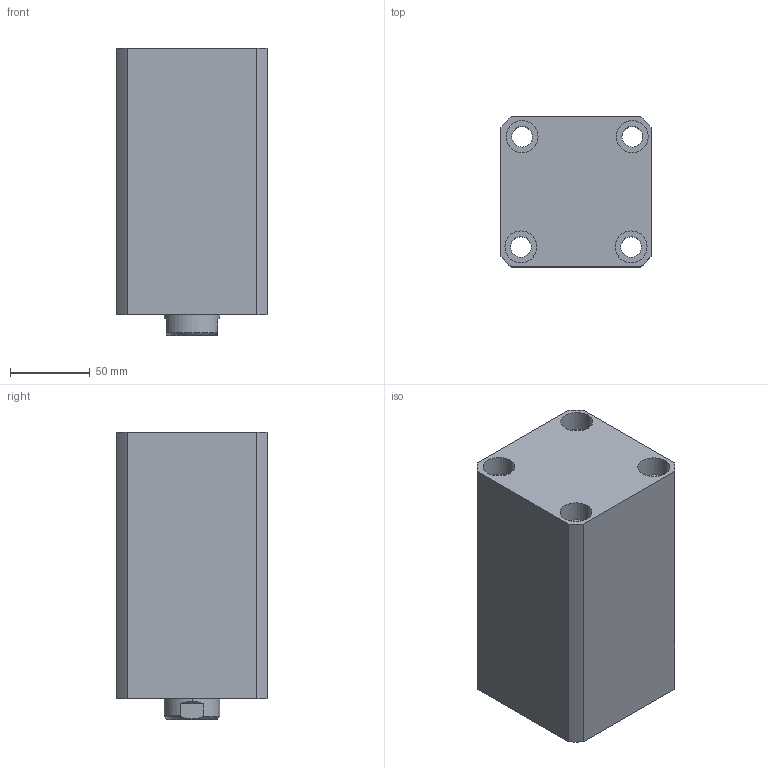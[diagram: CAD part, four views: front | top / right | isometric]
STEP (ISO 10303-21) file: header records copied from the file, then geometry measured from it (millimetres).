
FILE_DESCRIPTION (( 'STEP AP214' ), '1' );
FILE_NAME ('chtb-sdma63x100n_asm.STEP', '2018-05-16T02:46:18', ( 'Windows' ), ( 'Microsoft' ), 'SwSTEP 2.0', 'SolidWorks 2015', '' );
FILE_SCHEMA (( 'AUTOMOTIVE_DESIGN' ));
Length unit declared in the file: millimetre
Products named in the file (4): chtb-sdma63x100n_asm; CHTB-SDMA63X100NBT; CHTB63X100NHSG; CHTB-63QG
Assembly tree (3 placements, depth 2):
  chtb-sdma63x100n_asm
    CHTB-63QG
    CHTB63X100NHSG
    CHTB-SDMA63X100NBT
Bounding box: 94 x 94 x 180 mm (x, y, z)
Volume: 1137918.1 mm3; surface area: 187977.6 mm2
Topology: 3 solids, 3 shells, 165 faces, 472 edges, 321 vertices
Faces by surface type: cylinder 107, plane 31, bspline 12, cone 8, torus 7
Entity records: 17727 total; most frequent: CARTESIAN_POINT 13576, ORIENTED_EDGE 932, DIRECTION 716, EDGE_CURVE 466, VERTEX_POINT 321, AXIS2_PLACEMENT_3D 288, EDGE_LOOP 197, FACE_OUTER_BOUND 165
